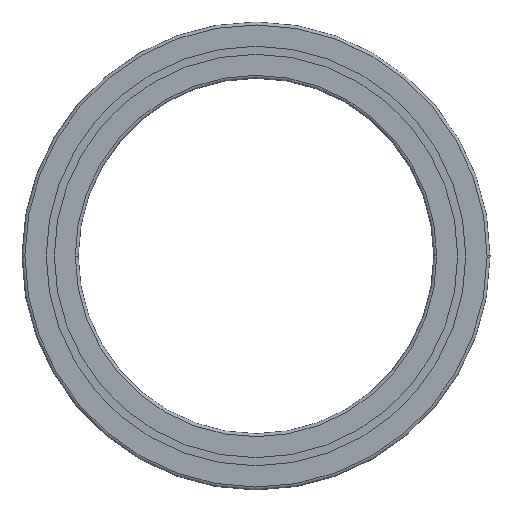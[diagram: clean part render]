
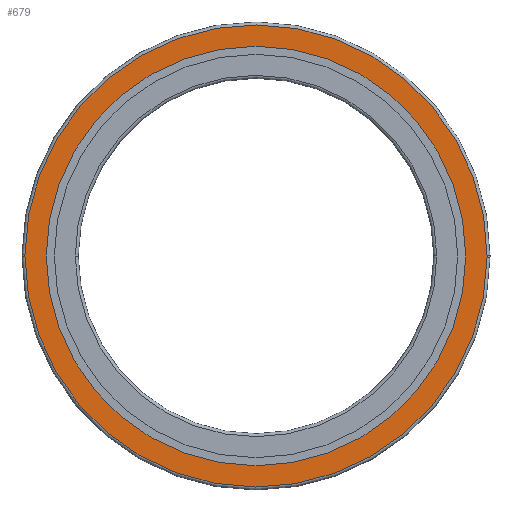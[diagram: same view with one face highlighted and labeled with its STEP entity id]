
A CAD part, front view. The second image highlights one B-rep face of the part: STEP entity #679.
In plain terms, the highlighted planar face has unit normal (0, -1, 0).
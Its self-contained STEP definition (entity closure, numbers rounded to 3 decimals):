
#315=EDGE_CURVE('',#787,#453,#853,.T.);
#421=VERTEX_POINT('',#969);
#443=EDGE_CURVE('',#421,#705,#993,.T.);
#453=VERTEX_POINT('',#1004);
#501=EDGE_CURVE('',#453,#697,#1062,.T.);
#637=VERTEX_POINT('',#1220);
#679=ADVANCED_FACE('',(#1266,#1267),#1268,.F.);
#693=EDGE_CURVE('',#637,#787,#1282,.T.);
#697=VERTEX_POINT('',#1286);
#705=VERTEX_POINT('',#1296);
#749=EDGE_CURVE('',#705,#421,#1343,.T.);
#787=VERTEX_POINT('',#1387);
#803=EDGE_CURVE('',#697,#637,#1405,.T.);
#853=CIRCLE('',#1454,195.0);
#969=CARTESIAN_POINT('',(177.0,0.0,0.));
#993=CIRCLE('',#1632,177.0);
#1004=CARTESIAN_POINT('',(-195.0,0.0,0.));
#1062=CIRCLE('',#1713,195.0);
#1220=CARTESIAN_POINT('',(195.0,0.0,0.0));
#1266=FACE_OUTER_BOUND('',#1964,.T.);
#1267=FACE_BOUND('',#1965,.T.);
#1268=PLANE('',#1966);
#1282=CIRCLE('',#1985,195.0);
#1286=CARTESIAN_POINT('',(194.996,0.0,-1.205));
#1296=CARTESIAN_POINT('',(-177.0,0.0,0.0));
#1343=CIRCLE('',#2061,177.0);
#1387=CARTESIAN_POINT('',(-194.996,0.0,1.205));
#1405=CIRCLE('',#2133,195.0);
#1454=AXIS2_PLACEMENT_3D('',#2162,#2163,#2164);
#1632=AXIS2_PLACEMENT_3D('',#2341,#2342,#2343);
#1713=AXIS2_PLACEMENT_3D('',#2437,#2438,#2439);
#1964=EDGE_LOOP('',(#2746,#2747,#2748,#2749));
#1965=EDGE_LOOP('',(#2750,#2751));
#1966=AXIS2_PLACEMENT_3D('',#2752,#2753,#2754);
#1985=AXIS2_PLACEMENT_3D('',#2762,#2763,#2764);
#2061=AXIS2_PLACEMENT_3D('',#2833,#2834,#2835);
#2133=AXIS2_PLACEMENT_3D('',#2924,#2925,#2926);
#2162=CARTESIAN_POINT('',(0.0,0.0,0.0));
#2163=DIRECTION('',(0.0,-1.0,0.0));
#2164=DIRECTION('',(1.0,0.0,0.0));
#2341=CARTESIAN_POINT('',(0.0,0.0,0.0));
#2342=DIRECTION('',(0.0,-1.0,0.0));
#2343=DIRECTION('',(1.0,0.0,0.0));
#2437=CARTESIAN_POINT('',(0.0,0.0,0.0));
#2438=DIRECTION('',(0.0,-1.0,0.0));
#2439=DIRECTION('',(-1.0,0.0,0.0));
#2746=ORIENTED_EDGE('',*,*,#693,.T.);
#2747=ORIENTED_EDGE('',*,*,#315,.T.);
#2748=ORIENTED_EDGE('',*,*,#501,.T.);
#2749=ORIENTED_EDGE('',*,*,#803,.T.);
#2750=ORIENTED_EDGE('',*,*,#749,.F.);
#2751=ORIENTED_EDGE('',*,*,#443,.F.);
#2752=CARTESIAN_POINT('',(0.0,0.0,0.0));
#2753=DIRECTION('',(0.0,1.0,0.0));
#2754=DIRECTION('',(1.0,0.0,-0.0));
#2762=CARTESIAN_POINT('',(0.0,0.0,0.0));
#2763=DIRECTION('',(0.0,-1.0,0.0));
#2764=DIRECTION('',(1.0,0.0,0.0));
#2833=CARTESIAN_POINT('',(0.0,0.0,0.0));
#2834=DIRECTION('',(0.0,-1.0,0.0));
#2835=DIRECTION('',(-1.0,0.0,0.0));
#2924=CARTESIAN_POINT('',(0.0,0.0,0.0));
#2925=DIRECTION('',(0.0,-1.0,0.0));
#2926=DIRECTION('',(-1.0,0.0,0.0));
